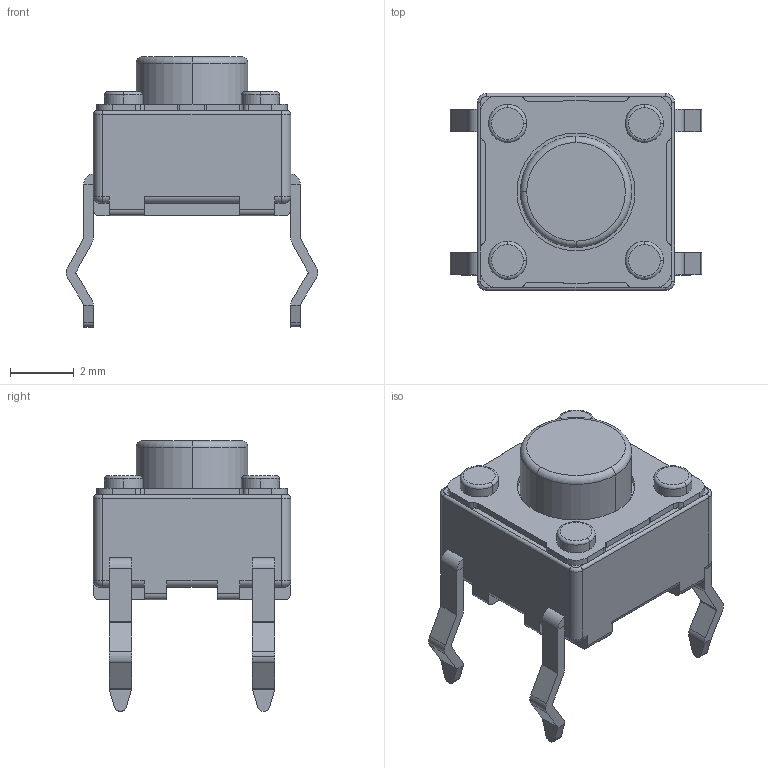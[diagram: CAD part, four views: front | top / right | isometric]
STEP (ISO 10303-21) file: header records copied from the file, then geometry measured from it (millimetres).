
FILE_DESCRIPTION (( 'STEP AP214' ), '1' );
FILE_NAME ('SKHHAK.STEP', '2009-07-24T04:42:02', ( '' ), ( '' ), 'SwSTEP 2.0', 'SolidWorks 2007', '' );
FILE_SCHEMA (( 'AUTOMOTIVE_DESIGN' ));
Length unit declared in the file: millimetre
Products named in the file (1): SKHHAK
Bounding box: 7.9 x 6.2 x 8.5 mm (x, y, z)
Volume: 141.5 mm3; surface area: 239.1 mm2
Topology: 1 solids, 5 shells, 302 faces, 783 edges, 497 vertices
Faces by surface type: cylinder 143, plane 136, torus 23
Entity records: 12325 total; most frequent: DIRECTION 1709, CARTESIAN_POINT 1675, ORIENTED_EDGE 1566, EDGE_CURVE 783, AXIS2_PLACEMENT_3D 627, VERTEX_POINT 497, VECTOR 455, LINE 455
